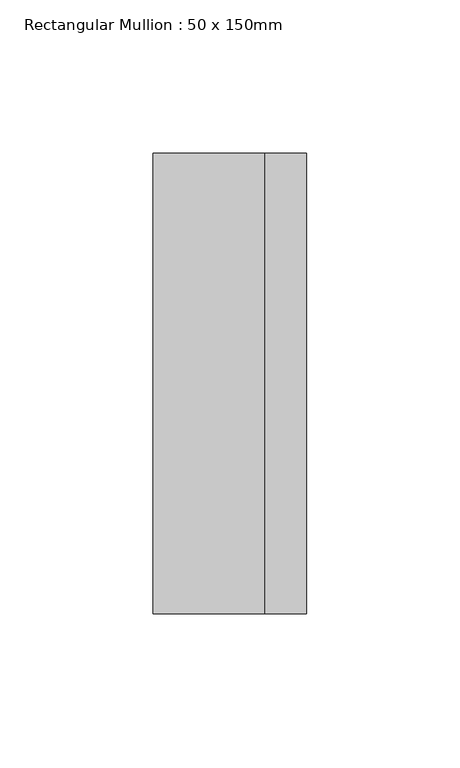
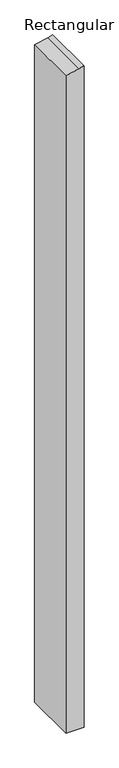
"""IFC4 building model written with IfcOpenShell, lengths in millimetres: member geometry, Rectangular Mullion : 50 x 150mm."""

from ifc_helpers import new_model, si_unit, frame, origin, place, context, project, spatial, polyline, outline, extrude, source, transform, mapped, element, save


def rectangular_mullion_50_x_150mm_31623d0c(model_context):
    return source(origin(), model_context, "Body", "SweptSolid", [
        extrude(outline(polyline([(-45.4880193, 25.0), (-48.6748048, 11.4351816), (-57.2345292, -25.0), (-1987.0180973, -25.0), (-1987.0180973, 25.0), (-45.4880193, 25.0)])), frame((0.0, -75.0, 0.0), z_axis=(0.0, 1.0, 0.0), x_axis=(0.0, 0.0, 1.0)), (0.0, 0.0, 1.0), 150.0),
    ])


if __name__ == "__main__":
    model = new_model("IFC4")
    model_context = context("Model", 3, world=origin())
    ifc_project = project(units=[si_unit("LENGTHUNIT", "METRE", prefix="MILLI")], contexts=[model_context])
    site = spatial("IfcSite", under=ifc_project)
    building = spatial("IfcBuilding", under=site)
    placement = place(None, origin())
    rectangular_mullion_50_x_150mm_shape = rectangular_mullion_50_x_150mm_31623d0c(model_context)
    element("IfcMember", 1, ObjectType="Rectangular Mullion : 50 x 150mm", at=placement, inside=building, context=model_context, shape_type="MappedRepresentation", body=[
        mapped(rectangular_mullion_50_x_150mm_shape, transform((0.0, 0.0, 0.0), x_axis=(1.0, 0.0, 0.0), y_axis=(0.0, 1.0, 0.0), z_axis=(0.0, 0.0, 1.0))),
    ])
    save(model, "model.ifc")
